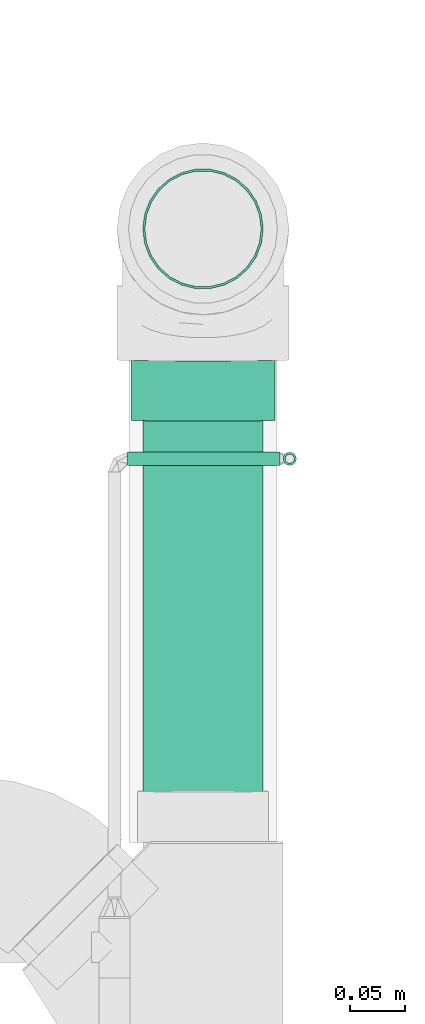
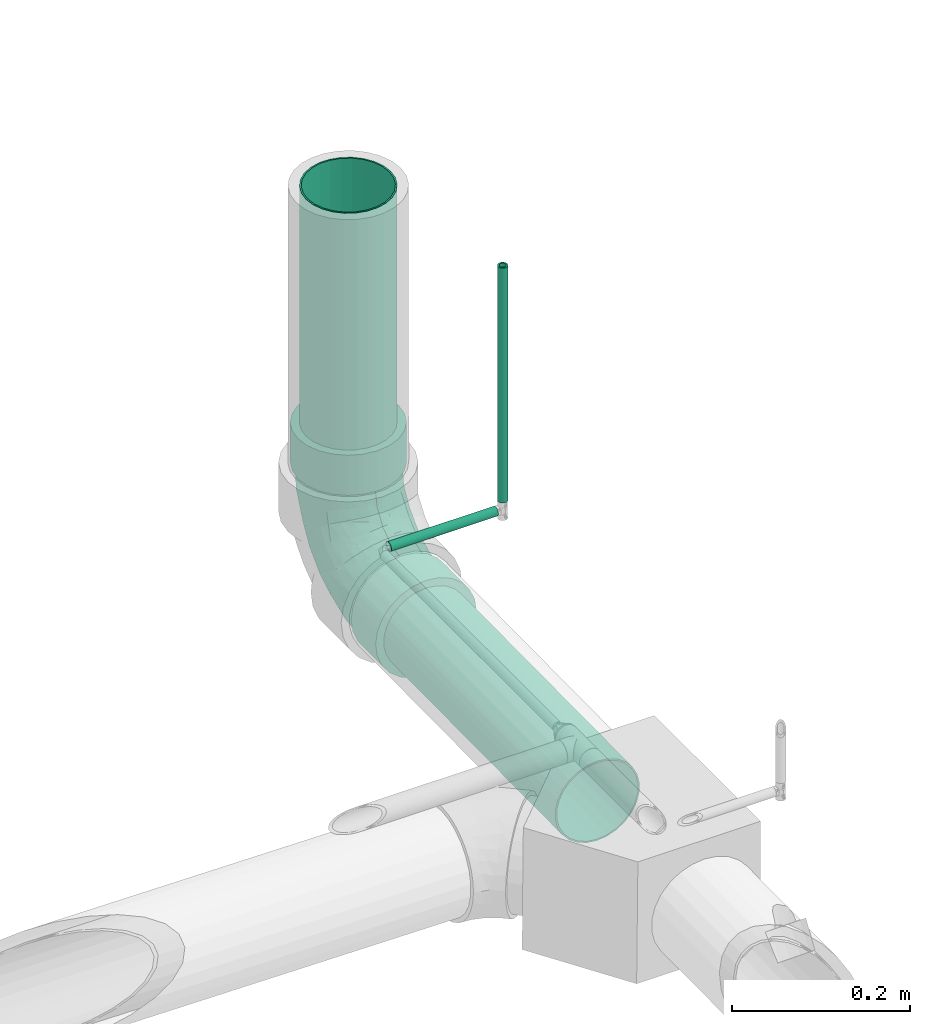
# One storey, part 45 of 108: 4 flow segments, 1 flow fitting.
"""IFC2X3 building model written with IfcOpenShell, lengths in millimetres."""

from ifc_helpers import new_model, entity, si_unit, converted_unit, derived_unit, direction, frame, origin_with_axes, origin_2d_with_axis, place, context, subcontext, project, spatial, hollow_circle, extrude, open_shell, surface_model, source, transform, mapped, type_object, element, save


model = new_model("IFC2X3")

# Units and contexts
model_context = context("Model", 3, precision=0.01, world=frame((0.0, 4.29681676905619e-09, 0.0)), true_north=direction((4.01073788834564e-13, 1.0)))
plan_context = context("Plan", 3, precision=0.01, world=frame((0.0, 4.29681676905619e-09, 0.0)), true_north=direction((4.01073788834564e-13, 1.0)))
body_context = subcontext(model_context, "Body", "Model", "MODEL_VIEW")
ifc_project = project(units=[converted_unit("PLANEANGLEUNIT", "DEGREE", entity("IfcPositiveLengthMeasure", 0.0174532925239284), si_unit("PLANEANGLEUNIT", "RADIAN"), dimensions=[0, 0, 0, 0, 0, 0, 0]), si_unit("AREAUNIT", "SQUARE_METRE"), si_unit("LENGTHUNIT", "METRE", prefix="MILLI"), si_unit("MASSUNIT", "GRAM", prefix="KILO"), si_unit("POWERUNIT", "WATT"), si_unit("PRESSUREUNIT", "PASCAL", prefix="KILO"), si_unit("FORCEUNIT", "NEWTON", prefix="KILO"), si_unit("ELECTRICVOLTAGEUNIT", "VOLT"), si_unit("ELECTRICCURRENTUNIT", "AMPERE"), si_unit("THERMODYNAMICTEMPERATUREUNIT", "DEGREE_CELSIUS"), si_unit("TIMEUNIT", "SECOND"), si_unit("VOLUMEUNIT", "CUBIC_METRE"), derived_unit("LINEARVELOCITYUNIT", [(si_unit("LENGTHUNIT", "METRE"), 1), (si_unit("TIMEUNIT", "SECOND"), -1)]), derived_unit("VOLUMETRICFLOWRATEUNIT", [(si_unit("VOLUMEUNIT", "CUBIC_METRE"), 1), (si_unit("TIMEUNIT", "SECOND"), -1)]), derived_unit("THERMALTRANSMITTANCEUNIT", [(si_unit("POWERUNIT", "WATT"), 1), (si_unit("THERMODYNAMICTEMPERATUREUNIT", "KELVIN"), -1), (si_unit("AREAUNIT", "SQUARE_METRE"), -1)]), derived_unit("SOUNDPRESSUREUNIT", [(si_unit("PRESSUREUNIT", "PASCAL"), 1)])], contexts=[model_context, plan_context])

# Site, building, storey
site_placement = place(None, frame((0.0, -4.29681676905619e-09, 0.0), z_axis=(0.0, 0.0, 1.0), x_axis=(1.0, 0.0, 0.0)))
site = spatial("IfcSite", under=ifc_project, at=site_placement, CompositionType="ELEMENT")
building_placement = place(site_placement, frame((0.0, 4.29681676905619e-09, 0.0), z_axis=(0.0, 0.0, 1.0), x_axis=(1.0, 0.0, 0.0)))
building = spatial("IfcBuilding", under=site, at=building_placement, Name="mc-building", CompositionType="ELEMENT")
storey_placement = place(building_placement, frame((0.0, 0.0, 210200.0), z_axis=(0.0, 0.0, 1.0), x_axis=(1.0, 0.0, 0.0)))
storey = spatial("IfcBuildingStorey", under=building, at=storey_placement, Name="Nivå F - 0,7 m", CompositionType="ELEMENT", Elevation=210200.0)

# Flow fitting
pipe_fitting_type = type_object("IfcPipeFittingType", Name="magi_sewer_bend_001", PredefinedType="BEND")
shared_shape_1 = source(origin_with_axes(), body_context, "Body", "SurfaceModel", [
    surface_model("IfcShellBasedSurfaceModel", [(-174.79605, -16.95265, -63.26814), (-174.79605, -32.75, -56.72466), (-174.79605, -46.3155, -46.3155), (-174.79605, -63.26814, -16.95265), (-174.79605, 56.72466, -32.75), (-174.79605, -56.72466, -32.75), (-174.79605, -65.5, 0.0), (-174.79605, 16.95265, -63.26814), (-174.79605, 0.0, -65.5), (-174.79605, 32.75, -56.72466), (-174.79605, 46.3155, -46.3155), (-174.79605, 63.26814, -16.95265), (-174.79605, -63.26814, 16.95265), (-174.79605, -56.72466, 32.75), (-174.79605, -46.3155, 46.3155), (-174.79605, 63.26814, 16.95265), (-174.79605, -16.95265, 63.26814), (-174.79605, 0.0, 65.5), (-174.79605, -32.75, 56.72466), (-174.79605, 46.3155, 46.3155), (-174.79605, 56.72466, 32.75), (-174.79605, 65.5, 0.0), (-174.79605, 16.95265, 63.26814), (-174.79605, 32.75, 56.72466), (-119.79605, -16.95265, 63.26814), (-119.79605, 16.95265, 63.26814), (-119.79605, 0.0, 65.5), (-119.79605, -46.3155, 46.3155), (-119.79605, -32.75, 56.72466), (-119.79605, -56.72466, 32.75), (-119.79605, -63.26814, 16.95265), (-119.79605, 46.3155, 46.3155), (-119.79605, 32.75, 56.72466), (-119.79605, 63.26814, 16.95265), (-119.79605, 56.72466, 32.75), (-119.79605, 63.26814, -16.95265), (-119.79605, 65.5, 0.0), (-119.79605, -63.26814, -16.95265), (-119.79605, 32.75, -56.72466), (-119.79605, -65.5, 0.0), (-119.79605, -16.95265, -63.26814), (-119.79605, -56.72466, -32.75), (-119.79605, -46.3155, -46.3155), (-119.79605, -32.75, -56.72466), (-119.79605, 0.0, -65.5), (-119.79605, 46.3155, -46.3155), (-119.79605, 56.72466, -32.75), (-119.79605, 16.95265, -63.26814), (-61.51711, 175.41996, 16.95265), (-54.97396, 175.35452, 32.75), (-44.56531, 175.25044, 46.3155), (-15.20393, 174.95684, 63.26814), (-61.51711, 175.41996, -16.95265), (18.69967, 174.61779, -63.26814), (-31.00049, 175.1148, 56.72466), (48.06105, 174.32417, 46.3155), (-44.56531, 175.25044, -46.3155), (-54.97396, 175.35452, -32.75), (-63.74885, 175.44227, 0.0), (-31.00049, 175.1148, -56.72466), (1.74787, 174.78731, -65.5), (-15.20393, 174.95684, -63.26814), (1.74787, 174.78731, 65.5), (18.69967, 174.61779, 63.26814), (34.49624, 174.45983, 56.72466), (58.4697, 174.22009, 32.75), (65.01285, 174.15467, 16.95265), (67.2446, 174.13234, 0.0), (48.06105, 174.32417, -46.3155), (34.49624, 174.45983, -56.72466), (58.4697, 174.22009, -32.75), (65.01285, 174.15467, -16.95265), (66.69463, 119.1351, 0.0), (64.46288, 119.15741, 16.95265), (57.91973, 119.22285, 32.75), (47.51108, 119.32693, 46.3155), (33.94626, 119.46258, 56.72466), (18.1497, 119.62054, 63.26814), (47.51108, 119.32693, -46.3155), (-15.7539, 119.95957, -63.26814), (18.1497, 119.62054, -63.26814), (57.91973, 119.22285, -32.75), (64.46288, 119.15741, -16.95265), (33.94626, 119.46258, -56.72466), (1.1979, 119.79006, -65.5), (-15.7539, 119.95957, 63.26814), (-45.11528, 120.25319, -46.3155), (1.1979, 119.79006, 65.5), (-62.06708, 120.42271, 16.95265), (-31.55046, 120.11754, 56.72466), (-45.11528, 120.25319, 46.3155), (-55.52393, 120.35728, 32.75), (-31.55046, 120.11754, -56.72466), (-62.06708, 120.42271, -16.95265), (-55.52393, 120.35728, -32.75), (-64.29882, 120.44503, 0.0), (-119.79605, 15.65855, -58.43851), (-119.79605, 0.0, -60.5), (-119.79605, 58.43851, -15.65855), (-119.79605, 30.25, -52.39454), (-119.79605, 52.39454, -30.25), (-119.79605, 42.77996, -42.77996), (-119.79605, -60.5, 0.0), (-119.79605, -30.25, -52.39454), (-119.79605, -42.77996, -42.77996), (-119.79605, -15.65855, -58.43851), (-119.79605, -58.43851, -15.65855), (-119.79605, -52.39454, -30.25), (-119.79605, -58.43851, 15.65855), (-119.79605, 58.43851, 15.65855), (-119.79605, 52.39454, 30.25), (-119.79605, 42.77996, 42.77996), (-119.79605, 30.25, 52.39454), (-119.79605, 15.65855, 58.43851), (-119.79605, -52.39454, 30.25), (-119.79605, -42.77996, 42.77996), (-119.79605, -30.25, 52.39454), (-119.79605, -15.65855, 58.43851), (-119.79605, 0.0, 60.5), (-119.79605, 60.5, 0.0), (1.1979, 119.79006, -60.5), (-14.45987, 119.94664, -58.43851), (-29.05059, 120.09254, -52.39454), (43.97572, 119.36228, -42.77996), (-51.19402, 120.31398, -30.25), (59.63349, 119.20571, 15.65855), (-41.57992, 120.21783, -42.77996), (61.69488, 119.18509, 0.0), (16.85567, 119.63349, -58.43851), (31.44639, 119.48757, -52.39454), (53.58982, 119.26614, -30.25), (59.63349, 119.20571, -15.65855), (-51.19402, 120.31398, 30.25), (-57.23769, 120.37442, -15.65855), (-59.29907, 120.39503, 0.0), (-57.23769, 120.37442, 15.65855), (-29.05059, 120.09254, 52.39454), (-41.57992, 120.21783, 42.77996), (-14.45987, 119.94664, 58.43851), (43.97572, 119.36228, 42.77996), (53.58982, 119.26614, 30.25), (31.44639, 119.48757, 52.39454), (1.1979, 119.79006, 60.5), (16.85567, 119.63349, 58.43851), (-87.7564, -47.01625, 33.99799), (-81.59863, -53.25036, 19.1542), (-73.11264, -54.39358, 0.0), (-89.88607, -56.58763, 0.0), (32.95566, 31.76664, 23.12546), (43.83182, 46.87375, 14.90539), (38.78221, 51.23378, 30.50477), (27.9062, 48.06796, 41.81132), (15.20787, 45.76588, 50.34414), (12.34215, 21.46453, 41.06128), (-87.67949, -22.85435, 54.43811), (-45.91566, -14.74948, 50.34414), (-59.39918, -0.63529, 58.66063), (35.61407, 77.62346, 45.0791), (-77.9757, -34.8361, 45.0791), (-43.87656, -41.69608, 15.28359), (-51.34156, -45.4394, 0.0), (-29.57048, -36.48523, 0.0), (-60.74993, 104.22435, 10.29838), (-69.35406, 85.05568, 13.11484), (-55.89617, 104.58988, 25.146), (-90.67997, 51.23595, 39.98418), (-82.35119, 68.70825, 21.14642), (-72.88608, 71.30295, 29.78529), (-74.46524, 51.83294, 46.83172), (-93.91693, 37.9627, 50.02655), (-64.7146, 46.18683, 53.57995), (-20.42175, 58.94997, 60.37774), (-44.08168, 44.5247, 59.00094), (-35.46902, 26.15717, 60.21062), (-91.4278, -8.01784, 59.47305), (-21.55232, 103.54419, 56.65744), (-7.40427, 89.47277, 60.34912), (-81.06567, 26.11389, 57.59764), (-89.39426, 8.29859, 60.34912), (-61.1963, 20.40125, 60.32653), (-100.22652, 59.69373, 21.24783), (-87.01841, 60.22132, 31.01352), (-5.00788, -10.48569, 28.16974), (-0.2567, 1.69835, 36.97518), (-20.02834, -14.60637, 37.65577), (-104.15051, 61.68873, 10.04729), (-84.97466, 70.52154, 9.94969), (-27.56806, -26.6884, 28.95666), (-47.70463, -27.46001, 41.48377), (-77.23051, 78.00668, 0.0), (-96.78351, 65.04758, 0.0), (-37.30343, 92.96145, 50.12884), (-103.3235, 22.58663, 56.65744), (-15.17468, 39.71716, 59.39969), (-29.2412, 11.04411, 56.57187), (-5.36768, 32.19014, 55.60132), (-10.25306, 10.3561, 49.56135), (55.12195, 72.56508, 0.0), (54.06364, 81.06208, 19.1542), (47.89142, 87.28187, 33.99799), (8.93168, 91.34306, 59.47305), (-51.61902, -38.26796, 30.50477), (57.48361, 89.31572, 0.0), (-48.94222, 80.35407, 45.98414), (-48.70503, 96.95831, 39.351), (-64.07654, 97.42911, 0.0), (-25.30197, 81.32275, 57.59764), (-43.81672, 66.27767, 53.95713), (23.72996, 87.44657, 54.43811), (-61.39969, 85.45322, 29.82879), (-63.05326, 67.11986, 42.80831), (-31.43024, 61.58285, 58.73283), (1.22922, 59.38986, 58.66063), (7.99357, -4.95199, 15.701), (-10.83497, -22.23259, 0.0), (7.90055, -7.97995, 0.0), (-14.80413, -23.43427, 18.62284), (36.77909, 29.20417, 0.0), (27.16405, 17.21797, 13.77462), (14.60561, 9.00285, 27.38157), (-62.13583, 35.67828, 57.75346), (25.55144, 29.73756, 33.12826), (45.95052, 50.88462, 0.0), (22.33982, 10.61211, 0.0), (-100.30809, 36.96592, -49.53455), (-47.73707, -27.58441, -41.37975), (-45.91566, -14.74948, -50.34414), (-20.02833, -14.60637, -37.65576), (-89.39426, 8.29859, -60.34912), (23.72996, 87.44657, -54.43811), (15.20787, 45.76587, -50.34414), (1.22922, 59.38986, -58.66063), (-103.3235, 22.58663, -56.65744), (-69.35406, 85.05568, -13.11484), (-99.61716, 61.7931, -15.61987), (-60.74993, 104.22435, -10.29838), (-84.97466, 70.52154, -9.94969), (-51.61902, -38.26796, -30.50477), (-27.56806, -26.6884, -28.95666), (-81.06567, 26.11389, -57.59764), (-77.10309, 43.83442, -50.82968), (-63.16489, 39.90276, -56.32433), (-77.9757, -34.8361, -45.0791), (-58.74282, 21.01019, -60.37774), (-44.08168, 44.5247, -59.00094), (-25.80119, 35.7288, -60.21062), (-93.06227, 50.53384, -39.72245), (-81.59863, -53.25036, -19.1542), (-48.37734, 98.38526, -39.19567), (-58.55811, 100.47446, -21.85722), (-66.48601, 63.72127, -42.80831), (-87.7564, -47.01625, -33.99799), (-96.83303, 57.44021, -28.40114), (-82.35119, 68.70825, -21.14642), (-87.67949, -22.85435, -54.4381), (-7.40427, 89.47277, -60.34912), (-47.3097, -43.36092, -14.90539), (14.60561, 9.00285, -27.38157), (12.34215, 21.46453, -41.06128), (25.55144, 29.73756, -33.12826), (-91.4278, -8.01784, -59.47305), (-76.81538, 65.43647, -32.93), (47.89142, 87.28187, -33.99799), (38.78221, 51.23378, -30.50477), (35.61407, 77.62346, -45.0791), (29.28304, 25.48407, -22.76574), (-60.47804, 86.07722, -30.64376), (-37.30342, 92.96145, -50.12884), (-21.55232, 103.54419, -56.65744), (54.06364, 81.06209, -19.1542), (-25.30197, 81.32274, -57.59764), (8.93168, 91.34306, -59.47305), (-39.56343, 15.57107, -59.39969), (-10.75116, 29.35017, -56.57187), (-32.13486, 5.68929, -55.60132), (42.13274, 43.45743, -15.28359), (24.92518, 13.72209, -12.72535), (6.90731, -5.56587, -16.9111), (-51.07595, 60.37645, -52.89772), (-19.7883, 61.39724, -60.32653), (-59.39918, -0.63529, -58.66063), (-37.21382, 63.0363, -57.06139), (-50.30861, 78.65249, -45.71732), (-10.25306, 10.3561, -49.56135), (27.9062, 48.06796, -41.81132), (-14.80414, -23.43428, -18.62283), (-5.00912, -10.4834, -28.17458), (-0.26016, 1.69895, -36.97891)], [open_shell([[[0, 1, 2]], [[0, 2, 3]], [[0, 3, 4]], [[3, 2, 5]], [[4, 3, 6]], [[0, 7, 8]], [[0, 9, 7]], [[10, 9, 0]], [[0, 4, 10]], [[6, 11, 4]], [[6, 12, 11]], [[12, 13, 14]], [[11, 14, 15]], [[16, 17, 14]], [[16, 14, 18]], [[15, 14, 17]], [[15, 19, 20]], [[21, 11, 15]], [[19, 22, 23]], [[22, 19, 15]], [[17, 22, 15]], [[11, 12, 14]], [[24, 25, 26]], [[27, 24, 28]], [[27, 29, 30]], [[24, 27, 25]], [[30, 25, 27]], [[25, 31, 32]], [[31, 25, 33]], [[31, 33, 34]], [[25, 30, 33]], [[33, 35, 36]], [[33, 30, 35]], [[37, 38, 39]], [[40, 37, 41]], [[42, 43, 40]], [[42, 40, 41]], [[44, 37, 40]], [[39, 45, 46]], [[46, 35, 39]], [[38, 44, 47]], [[38, 45, 39]], [[38, 37, 44]], [[39, 35, 30]], [[35, 11, 36]], [[46, 4, 35]], [[47, 44, 7]], [[45, 10, 46]], [[35, 4, 11]], [[11, 21, 36]], [[9, 38, 7]], [[9, 10, 45]], [[38, 47, 7]], [[10, 4, 46]], [[45, 38, 9]], [[44, 8, 7]], [[0, 40, 43]], [[42, 1, 43]], [[5, 41, 37]], [[42, 41, 2]], [[3, 37, 39]], [[40, 0, 8]], [[43, 1, 0]], [[42, 2, 1]], [[41, 5, 2]], [[3, 5, 37]], [[39, 6, 3]], [[40, 8, 44]], [[30, 12, 39]], [[29, 13, 30]], [[28, 18, 27]], [[27, 14, 29]], [[30, 13, 12]], [[12, 6, 39]], [[17, 16, 24]], [[16, 18, 28]], [[14, 27, 18]], [[14, 13, 29]], [[24, 16, 28]], [[24, 26, 17]], [[22, 25, 32]], [[31, 23, 32]], [[20, 34, 33]], [[31, 34, 19]], [[15, 33, 36]], [[25, 22, 17]], [[32, 23, 22]], [[31, 19, 23]], [[34, 20, 19]], [[15, 20, 33]], [[36, 21, 15]], [[25, 17, 26]], [[48, 49, 50]], [[48, 50, 51]], [[52, 48, 53]], [[51, 50, 54]], [[51, 55, 48]], [[52, 56, 57]], [[52, 58, 48]], [[59, 60, 61]], [[56, 52, 53]], [[59, 56, 53]], [[62, 63, 51]], [[63, 64, 55]], [[48, 55, 53]], [[65, 66, 67]], [[65, 67, 55]], [[53, 55, 67]], [[53, 68, 69]], [[60, 59, 53]], [[67, 70, 68]], [[68, 53, 67]], [[70, 67, 71]], [[51, 63, 55]], [[72, 73, 74]], [[72, 74, 75]], [[75, 76, 77]], [[72, 75, 78]], [[79, 80, 75]], [[72, 81, 82]], [[72, 78, 81]], [[78, 80, 83]], [[78, 75, 80]], [[79, 84, 80]], [[79, 75, 77]], [[85, 86, 87]], [[88, 85, 89]], [[90, 91, 88]], [[90, 88, 89]], [[86, 85, 88]], [[79, 86, 92]], [[79, 87, 86]], [[86, 93, 94]], [[86, 88, 93]], [[95, 93, 88]], [[87, 79, 77]], [[79, 61, 84]], [[92, 59, 79]], [[93, 95, 52]], [[86, 56, 92]], [[79, 59, 61]], [[61, 60, 84]], [[57, 94, 52]], [[57, 56, 86]], [[94, 93, 52]], [[56, 59, 92]], [[86, 94, 57]], [[95, 58, 52]], [[48, 88, 91]], [[90, 49, 91]], [[54, 89, 85]], [[90, 89, 50]], [[51, 85, 87]], [[88, 48, 58]], [[91, 49, 48]], [[90, 50, 49]], [[89, 54, 50]], [[51, 54, 85]], [[87, 62, 51]], [[88, 58, 95]], [[77, 63, 87]], [[76, 64, 77]], [[74, 65, 75]], [[75, 55, 76]], [[77, 64, 63]], [[63, 62, 87]], [[67, 66, 73]], [[66, 65, 74]], [[55, 75, 65]], [[55, 64, 76]], [[73, 66, 74]], [[73, 72, 67]], [[71, 82, 81]], [[78, 70, 81]], [[69, 83, 80]], [[78, 83, 68]], [[53, 80, 84]], [[82, 71, 67]], [[81, 70, 71]], [[78, 68, 70]], [[83, 69, 68]], [[53, 69, 80]], [[84, 60, 53]], [[82, 67, 72]], [[96, 97, 98]], [[99, 96, 98]], [[98, 100, 101]], [[99, 98, 101]], [[102, 98, 97]], [[103, 104, 105]], [[104, 97, 105]], [[106, 102, 107]], [[104, 107, 102]], [[104, 102, 97]], [[102, 108, 98]], [[109, 98, 108]], [[110, 109, 111]], [[112, 109, 108]], [[111, 109, 112]], [[113, 112, 108]], [[114, 115, 108]], [[116, 108, 115]], [[117, 118, 116]], [[108, 116, 118]], [[118, 113, 108]], [[119, 98, 109]], [[120, 121, 122]], [[123, 120, 122]], [[122, 124, 125]], [[124, 122, 126]], [[125, 127, 122]], [[128, 123, 129]], [[128, 120, 123]], [[130, 127, 131]], [[127, 130, 123]], [[122, 127, 123]], [[132, 124, 133]], [[134, 135, 132]], [[132, 136, 124]], [[136, 125, 124]], [[136, 132, 137]], [[125, 136, 138]], [[125, 139, 140]], [[139, 125, 141]], [[141, 142, 143]], [[142, 141, 125]], [[125, 138, 142]], [[133, 134, 132]], [[144, 114, 145]], [[146, 145, 147]], [[148, 149, 150]], [[145, 114, 108]], [[108, 147, 145]], [[151, 152, 153]], [[115, 114, 144]], [[154, 155, 156]], [[157, 139, 141]], [[158, 116, 115]], [[158, 154, 116]], [[159, 160, 161]], [[162, 163, 164]], [[111, 165, 110]], [[163, 166, 167]], [[168, 169, 170]], [[171, 172, 173]], [[165, 111, 169]], [[117, 174, 118]], [[138, 175, 176]], [[177, 178, 179]], [[180, 181, 166]], [[182, 183, 184]], [[119, 109, 185]], [[166, 186, 185]], [[187, 184, 188]], [[189, 190, 186]], [[136, 137, 191]], [[113, 192, 112]], [[193, 194, 195]], [[196, 155, 184]], [[166, 185, 180]], [[149, 197, 198]], [[111, 112, 169]], [[150, 198, 199]], [[191, 175, 136]], [[149, 198, 150]], [[143, 142, 200]], [[144, 201, 158]], [[198, 125, 140]], [[135, 164, 132]], [[199, 198, 140]], [[145, 146, 160]], [[198, 202, 125]], [[140, 139, 199]], [[203, 191, 204]], [[177, 170, 169]], [[186, 163, 189]], [[178, 177, 192]], [[205, 162, 134]], [[113, 118, 178]], [[189, 163, 205]], [[181, 167, 166]], [[191, 206, 175]], [[207, 206, 191]], [[132, 164, 204]], [[208, 141, 143]], [[116, 154, 117]], [[157, 208, 152]], [[136, 175, 138]], [[142, 138, 176]], [[155, 158, 188]], [[162, 205, 163]], [[157, 141, 208]], [[209, 167, 210]], [[206, 171, 176]], [[204, 137, 132]], [[210, 170, 207]], [[171, 206, 211]], [[200, 176, 212]], [[174, 178, 118]], [[156, 173, 179]], [[155, 154, 158]], [[174, 154, 156]], [[155, 188, 184]], [[155, 196, 194]], [[200, 208, 143]], [[212, 195, 152]], [[212, 152, 208]], [[152, 196, 153]], [[201, 144, 145]], [[158, 115, 144]], [[139, 157, 199]], [[150, 199, 157]], [[213, 214, 215]], [[182, 184, 187]], [[216, 159, 161]], [[217, 149, 218]], [[219, 213, 218]], [[152, 151, 157]], [[192, 169, 112]], [[177, 220, 170]], [[211, 207, 172]], [[165, 168, 210]], [[185, 186, 190]], [[163, 186, 166]], [[119, 185, 190]], [[185, 109, 180]], [[109, 110, 180]], [[181, 110, 165]], [[110, 181, 180]], [[210, 181, 165]], [[172, 220, 179]], [[212, 176, 171]], [[194, 173, 156]], [[171, 173, 193]], [[210, 204, 209]], [[191, 137, 204]], [[176, 200, 142]], [[208, 200, 212]], [[154, 174, 117]], [[178, 174, 156]], [[207, 191, 203]], [[172, 207, 170]], [[156, 179, 178]], [[172, 179, 173]], [[210, 167, 181]], [[163, 167, 209]], [[183, 196, 184]], [[221, 153, 219]], [[221, 151, 153]], [[150, 157, 151]], [[155, 194, 156]], [[195, 194, 196]], [[152, 195, 196]], [[193, 195, 212]], [[171, 193, 212]], [[194, 193, 173]], [[164, 163, 209]], [[134, 162, 135]], [[108, 102, 147]], [[202, 198, 197]], [[202, 127, 125]], [[176, 175, 206]], [[178, 192, 113]], [[169, 192, 177]], [[162, 164, 135]], [[204, 164, 209]], [[216, 187, 159]], [[160, 159, 145]], [[145, 159, 201]], [[150, 221, 148]], [[149, 222, 197]], [[219, 182, 213]], [[213, 223, 218]], [[213, 216, 214]], [[158, 201, 188]], [[187, 188, 201]], [[159, 187, 201]], [[182, 187, 216]], [[213, 182, 216]], [[219, 153, 183]], [[219, 183, 182]], [[196, 183, 153]], [[216, 161, 214]], [[179, 220, 177]], [[172, 170, 220]], [[169, 168, 165]], [[170, 210, 168]], [[207, 211, 206]], [[172, 171, 211]], [[204, 210, 203]], [[207, 203, 210]], [[148, 219, 218]], [[151, 221, 150]], [[219, 148, 221]], [[149, 148, 218]], [[149, 217, 222]], [[223, 213, 215]], [[223, 217, 218]], [[99, 101, 224]], [[225, 226, 227]], [[97, 96, 228]], [[229, 230, 231]], [[96, 99, 232]], [[189, 205, 233]], [[190, 234, 119]], [[205, 235, 233]], [[236, 234, 190]], [[237, 225, 238]], [[239, 240, 241]], [[242, 225, 237]], [[243, 244, 245]], [[100, 246, 101]], [[107, 247, 106]], [[124, 248, 249]], [[247, 147, 106]], [[240, 246, 250]], [[247, 107, 251]], [[252, 234, 253]], [[242, 103, 254]], [[239, 243, 228]], [[121, 120, 255]], [[131, 127, 202]], [[256, 146, 247]], [[257, 258, 259]], [[260, 105, 97]], [[237, 247, 251]], [[242, 254, 226]], [[246, 252, 261]], [[189, 236, 190]], [[262, 263, 264]], [[253, 236, 233]], [[246, 240, 224]], [[133, 235, 134]], [[257, 259, 265]], [[254, 103, 105]], [[253, 233, 266]], [[267, 122, 268]], [[262, 130, 269]], [[122, 121, 268]], [[255, 270, 268]], [[242, 104, 103]], [[126, 122, 267]], [[248, 266, 249]], [[120, 128, 271]], [[123, 264, 129]], [[96, 232, 228]], [[272, 273, 274]], [[222, 217, 275]], [[276, 277, 257]], [[229, 129, 264]], [[269, 130, 131]], [[241, 278, 244]], [[269, 202, 197]], [[107, 104, 251]], [[248, 124, 126]], [[202, 269, 131]], [[129, 229, 128]], [[130, 262, 123]], [[270, 255, 279]], [[234, 252, 98]], [[256, 247, 237]], [[250, 261, 266]], [[269, 197, 222]], [[233, 235, 249]], [[239, 241, 243]], [[260, 228, 280]], [[271, 255, 120]], [[231, 245, 279]], [[278, 281, 244]], [[282, 266, 248]], [[260, 254, 105]], [[280, 274, 226]], [[280, 226, 254]], [[226, 283, 227]], [[230, 229, 264]], [[271, 229, 231]], [[230, 284, 258]], [[230, 283, 273]], [[104, 242, 251]], [[237, 251, 242]], [[263, 262, 269]], [[264, 123, 262]], [[283, 230, 258]], [[277, 214, 285]], [[238, 286, 285]], [[256, 285, 161]], [[287, 283, 258]], [[275, 217, 276]], [[240, 250, 278]], [[239, 232, 224]], [[282, 278, 250]], [[281, 267, 270]], [[233, 236, 189]], [[234, 236, 253]], [[261, 252, 253]], [[234, 98, 119]], [[246, 100, 252]], [[98, 252, 100]], [[244, 281, 279]], [[280, 228, 243]], [[273, 245, 231]], [[243, 245, 272]], [[228, 260, 97]], [[254, 260, 280]], [[229, 271, 128]], [[255, 271, 231]], [[266, 261, 253]], [[246, 261, 250]], [[126, 267, 248]], [[282, 248, 267]], [[231, 279, 255]], [[244, 279, 245]], [[230, 264, 284]], [[257, 286, 287]], [[264, 263, 284]], [[259, 284, 263]], [[246, 224, 101]], [[239, 224, 240]], [[230, 273, 231]], [[274, 273, 283]], [[226, 274, 283]], [[272, 274, 280]], [[243, 272, 280]], [[273, 272, 245]], [[278, 282, 267]], [[266, 282, 250]], [[134, 235, 205]], [[249, 235, 133]], [[124, 249, 133]], [[233, 249, 266]], [[147, 247, 146]], [[147, 102, 106]], [[224, 232, 99]], [[228, 232, 239]], [[255, 268, 121]], [[267, 268, 270]], [[256, 237, 238]], [[256, 160, 146]], [[265, 276, 257]], [[222, 275, 269]], [[269, 275, 263]], [[276, 217, 223]], [[278, 241, 240]], [[215, 277, 276]], [[286, 277, 285]], [[226, 225, 242]], [[238, 225, 227]], [[286, 238, 227]], [[256, 238, 285]], [[287, 286, 227]], [[286, 257, 277]], [[283, 287, 227]], [[257, 287, 258]], [[214, 277, 215]], [[214, 161, 285]], [[243, 241, 244]], [[267, 281, 278]], [[279, 281, 270]], [[284, 259, 258]], [[265, 263, 275]], [[263, 265, 259]], [[275, 276, 265]], [[256, 161, 160]], [[215, 276, 223]]])]),
])
flow_fitting_placement = place(storey_placement, frame((328906.4829, 464105.74812, 3078.51384999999), z_axis=(1.0, 0.0, 0.0), x_axis=(0.0, 0.999950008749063, 0.00999900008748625)))
element("IfcFlowFitting", 1, at=flow_fitting_placement, inside=storey, type_object=pipe_fitting_type, Name="magi_sewer_bend_001", context=body_context, shape_type="MappedRepresentation", body=[
    mapped(shared_shape_1, transform((0.0, 0.0, 0.0), scale=1.0)),
])

# Flow segments
pipe_segment_type_1 = type_object("IfcPipeSegmentType", Name="MA", PredefinedType="RIGIDSEGMENT")
shared_shape_2 = source(origin_with_axes(), body_context, "Body", "SweptSolid", [
    extrude(hollow_circle(Radius=55.0, WallThickness=2.0, at=origin_2d_with_axis()), frame((0.0, 0.0, 0.0), z_axis=(1.0, 0.0, 0.0), x_axis=(0.0, 1.0, 0.0)), (0.0, 0.0, 1.0), 440.2),
])
flow_segment_1_placement = place(storey_placement, frame((328906.4829, 463545.75945, 3072.91396000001), z_axis=(0.999991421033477, 4.10000172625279e-05, -0.00414200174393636), x_axis=(4.17904594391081e-07, 0.999950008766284, 0.00999899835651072)))
element("IfcFlowSegment", 2, at=flow_segment_1_placement, inside=storey, type_object=pipe_segment_type_1, Name="MA", context=body_context, shape_type="MappedRepresentation", body=[
    mapped(shared_shape_2, transform((0.0, 0.0, 0.0), scale=1.0)),
])
shared_shape_3 = source(origin_with_axes(), body_context, "Body", "SweptSolid", [
    extrude(hollow_circle(Radius=55.0, WallThickness=2.0, at=origin_2d_with_axis()), frame((0.0, 0.0, 0.0), z_axis=(1.0, 0.0, 0.0), x_axis=(0.0, 1.0, 0.0)), (0.0, 0.0, 1.0), 380.0),
])
flow_segment_2_placement = place(storey_placement, frame((328906.4829, 464105.74812, 3198.30989999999), z_axis=(-2.06795153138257e-25, 0.9999999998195, 1.89999999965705e-05), x_axis=(-5.3999999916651e-05, -1.89999999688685e-05, 0.9999999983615)))
element("IfcFlowSegment", 3, at=flow_segment_2_placement, inside=storey, type_object=pipe_segment_type_1, Name="MA", context=body_context, shape_type="MappedRepresentation", body=[
    mapped(shared_shape_3, transform((0.0, 0.0, 0.0), scale=1.0)),
])
pipe_segment_type_2 = type_object("IfcPipeSegmentType", Name="Kobberrør", PredefinedType="RIGIDSEGMENT")
shared_shape_4 = source(origin_with_axes(), body_context, "Body", "SweptSolid", [
    extrude(hollow_circle(Radius=6.0, WallThickness=2.0, at=origin_2d_with_axis()), frame((0.0, 0.0, 0.0), z_axis=(1.0, 0.0, 0.0), x_axis=(0.0, 1.0, 0.0)), (0.0, 0.0, 1.0), 138.9),
])
flow_segment_3_placement = place(storey_placement, frame((328976.66139, 463895.84873, 3233.60000000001), z_axis=(0.0, 0.0, 1.0), x_axis=(-1.0, 0.0, 0.0)))
element("IfcFlowSegment", 4, at=flow_segment_3_placement, inside=storey, type_object=pipe_segment_type_2, Name="Kobberrør", context=body_context, shape_type="MappedRepresentation", body=[
    mapped(shared_shape_4, transform((0.0, 0.0, 0.0), scale=1.0)),
])
shared_shape_5 = source(origin_with_axes(), body_context, "Body", "SweptSolid", [
    extrude(hollow_circle(Radius=6.0, WallThickness=2.0, at=origin_2d_with_axis()), frame((0.0, 0.0, 0.0), z_axis=(1.0, 0.0, 0.0), x_axis=(0.0, 1.0, 0.0)), (0.0, 0.0, 1.0), 322.4),
])
flow_segment_4_placement = place(storey_placement, frame((328985.66139, 463895.84873, 3245.60000000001), z_axis=(1.0, 0.0, 0.0), x_axis=(0.0, 0.0, 1.0)))
element("IfcFlowSegment", 5, at=flow_segment_4_placement, inside=storey, type_object=pipe_segment_type_2, Name="Kobberrør", context=body_context, shape_type="MappedRepresentation", body=[
    mapped(shared_shape_5, transform((0.0, 0.0, 0.0), scale=1.0)),
])

save(model, "model.ifc")
